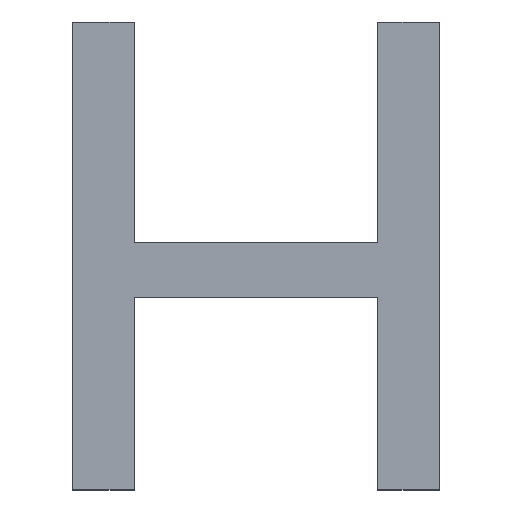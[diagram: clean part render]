
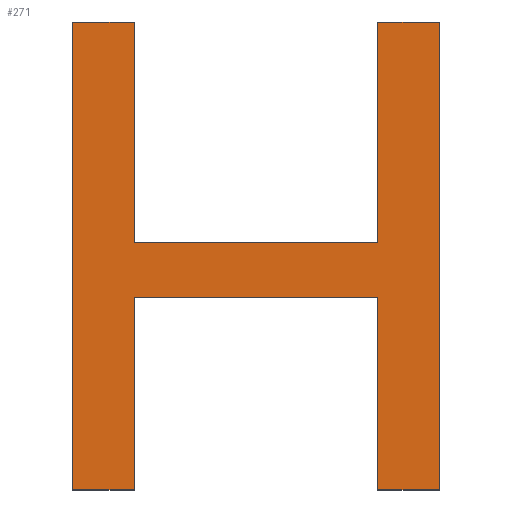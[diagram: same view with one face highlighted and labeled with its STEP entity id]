
A CAD part, top view. The second image highlights one B-rep face of the part: STEP entity #271.
In plain terms, the highlighted planar face has unit normal (0, 0, 1).
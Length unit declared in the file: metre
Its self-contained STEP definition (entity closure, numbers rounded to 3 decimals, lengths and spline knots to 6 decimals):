
#72=ORIENTED_EDGE('',*,*,#118,.T.);
#73=ORIENTED_EDGE('',*,*,#84,.T.);
#74=ORIENTED_EDGE('',*,*,#88,.T.);
#75=ORIENTED_EDGE('',*,*,#91,.T.);
#76=ORIENTED_EDGE('',*,*,#94,.T.);
#77=ORIENTED_EDGE('',*,*,#97,.T.);
#78=ORIENTED_EDGE('',*,*,#100,.T.);
#79=ORIENTED_EDGE('',*,*,#103,.T.);
#80=ORIENTED_EDGE('',*,*,#106,.T.);
#81=ORIENTED_EDGE('',*,*,#109,.T.);
#82=ORIENTED_EDGE('',*,*,#112,.T.);
#83=ORIENTED_EDGE('',*,*,#115,.T.);
#84=EDGE_CURVE('',#120,#121,#144,.T.);
#88=EDGE_CURVE('',#121,#124,#148,.F.);
#91=EDGE_CURVE('',#124,#126,#151,.F.);
#94=EDGE_CURVE('',#126,#128,#154,.F.);
#97=EDGE_CURVE('',#128,#130,#157,.T.);
#100=EDGE_CURVE('',#130,#132,#160,.F.);
#103=EDGE_CURVE('',#132,#134,#163,.F.);
#106=EDGE_CURVE('',#134,#136,#166,.T.);
#109=EDGE_CURVE('',#136,#138,#169,.T.);
#112=EDGE_CURVE('',#138,#140,#172,.T.);
#115=EDGE_CURVE('',#140,#142,#175,.F.);
#118=EDGE_CURVE('',#142,#120,#178,.T.);
#120=VERTEX_POINT('',#360);
#121=VERTEX_POINT('',#361);
#124=VERTEX_POINT('',#369);
#126=VERTEX_POINT('',#375);
#128=VERTEX_POINT('',#381);
#130=VERTEX_POINT('',#387);
#132=VERTEX_POINT('',#393);
#134=VERTEX_POINT('',#399);
#136=VERTEX_POINT('',#405);
#138=VERTEX_POINT('',#411);
#140=VERTEX_POINT('',#417);
#142=VERTEX_POINT('',#423);
#144=LINE('',#359,#180);
#148=LINE('',#368,#184);
#151=LINE('',#374,#187);
#154=LINE('',#380,#190);
#157=LINE('',#386,#193);
#160=LINE('',#392,#196);
#163=LINE('',#398,#199);
#166=LINE('',#404,#202);
#169=LINE('',#410,#205);
#172=LINE('',#416,#208);
#175=LINE('',#422,#211);
#178=LINE('',#428,#214);
#180=VECTOR('',#295,1.);
#184=VECTOR('',#301,1.);
#187=VECTOR('',#306,1.);
#190=VECTOR('',#311,1.);
#193=VECTOR('',#316,1.);
#196=VECTOR('',#321,1.);
#199=VECTOR('',#326,1.);
#202=VECTOR('',#331,1.);
#205=VECTOR('',#336,1.);
#208=VECTOR('',#341,1.);
#211=VECTOR('',#346,1.);
#214=VECTOR('',#351,1.);
#229=EDGE_LOOP('',(#72,#73,#74,#75,#76,#77,#78,#79,#80,#81,#82,#83));
#243=FACE_BOUND('',#229,.T.);
#257=PLANE('',#290);
#271=ADVANCED_FACE('',(#243),#257,.F.);
#290=AXIS2_PLACEMENT_3D('',#431,#355,#356);
#295=DIRECTION('',(0.,-1.,0.));
#301=DIRECTION('',(-1.,0.,0.));
#306=DIRECTION('',(0.,-1.,0.));
#311=DIRECTION('',(-1.,0.,0.));
#316=DIRECTION('',(0.,-1.,0.));
#321=DIRECTION('',(-1.,0.,0.));
#326=DIRECTION('',(0.,-1.,0.));
#331=DIRECTION('',(-1.,0.,0.));
#336=DIRECTION('',(0.,-1.,0.));
#341=DIRECTION('',(-1.,0.,0.));
#346=DIRECTION('',(0.,-1.,0.));
#351=DIRECTION('',(-1.,0.,0.));
#355=DIRECTION('',(0.,0.,-1.));
#356=DIRECTION('',(0.,-1.,0.));
#359=CARTESIAN_POINT('',(-0.041891,0.00635,-0.03));
#360=CARTESIAN_POINT('',(-0.041891,0.006759,-0.03));
#361=CARTESIAN_POINT('',(-0.041891,0.005942,-0.03));
#368=CARTESIAN_POINT('',(-0.04158,0.005942,-0.03));
#369=CARTESIAN_POINT('',(-0.041783,0.005942,-0.03));
#374=CARTESIAN_POINT('',(-0.041783,0.00635,-0.03));
#375=CARTESIAN_POINT('',(-0.041783,0.006277,-0.03));
#380=CARTESIAN_POINT('',(-0.04158,0.006277,-0.03));
#381=CARTESIAN_POINT('',(-0.041358,0.006277,-0.03));
#386=CARTESIAN_POINT('',(-0.041358,0.00635,-0.03));
#387=CARTESIAN_POINT('',(-0.041358,0.005942,-0.03));
#392=CARTESIAN_POINT('',(-0.04158,0.005942,-0.03));
#393=CARTESIAN_POINT('',(-0.04125,0.005942,-0.03));
#398=CARTESIAN_POINT('',(-0.04125,0.00635,-0.03));
#399=CARTESIAN_POINT('',(-0.04125,0.006759,-0.03));
#404=CARTESIAN_POINT('',(-0.04158,0.006759,-0.03));
#405=CARTESIAN_POINT('',(-0.041358,0.006759,-0.03));
#410=CARTESIAN_POINT('',(-0.041358,0.00635,-0.03));
#411=CARTESIAN_POINT('',(-0.041358,0.006373,-0.03));
#416=CARTESIAN_POINT('',(-0.04158,0.006373,-0.03));
#417=CARTESIAN_POINT('',(-0.041783,0.006373,-0.03));
#422=CARTESIAN_POINT('',(-0.041783,0.00635,-0.03));
#423=CARTESIAN_POINT('',(-0.041783,0.006759,-0.03));
#428=CARTESIAN_POINT('',(-0.04158,0.006759,-0.03));
#431=CARTESIAN_POINT('',(-0.04158,0.00635,-0.03));
